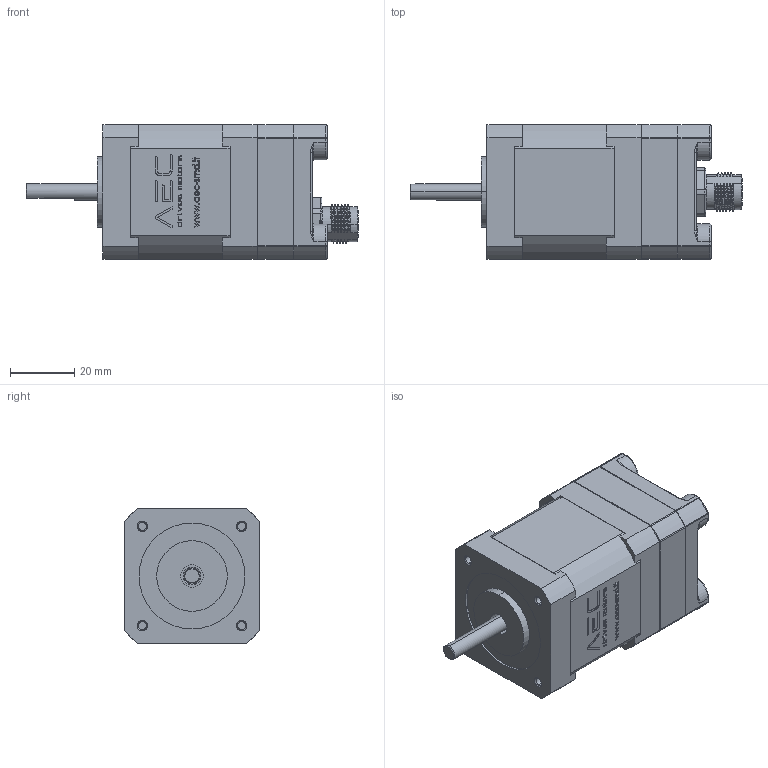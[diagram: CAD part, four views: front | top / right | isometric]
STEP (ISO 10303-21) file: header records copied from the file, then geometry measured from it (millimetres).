
FILE_DESCRIPTION (( 'STEP AP214' ), '1' );
FILE_NAME ('M42SH47-T-C.STEP', '2025-05-17T07:39:27', ( '' ), ( '' ), 'SwSTEP 2.0', 'SolidWorks 2019', '' );
FILE_SCHEMA (( 'AUTOMOTIVE_DESIGN' ));
Length unit declared in the file: millimetre
Products named in the file (1): M42SH47-T-C
Bounding box: 103.5 x 42 x 42 mm (x, y, z)
Volume: 68732.7 mm3; surface area: 58002.2 mm2
Topology: 31 solids, 31 shells, 7069 faces, 17585 edges, 11318 vertices
Faces by surface type: plane 3338, cylinder 1929, bspline 1043, torus 590, cone 117, sphere 52
Entity records: 358713 total; most frequent: CARTESIAN_POINT 115804, ORIENTED_EDGE 34994, DIRECTION 32446, EDGE_CURVE 17497, VERTEX_POINT 11318, AXIS2_PLACEMENT_3D 11258, LINE 9930, VECTOR 9930
